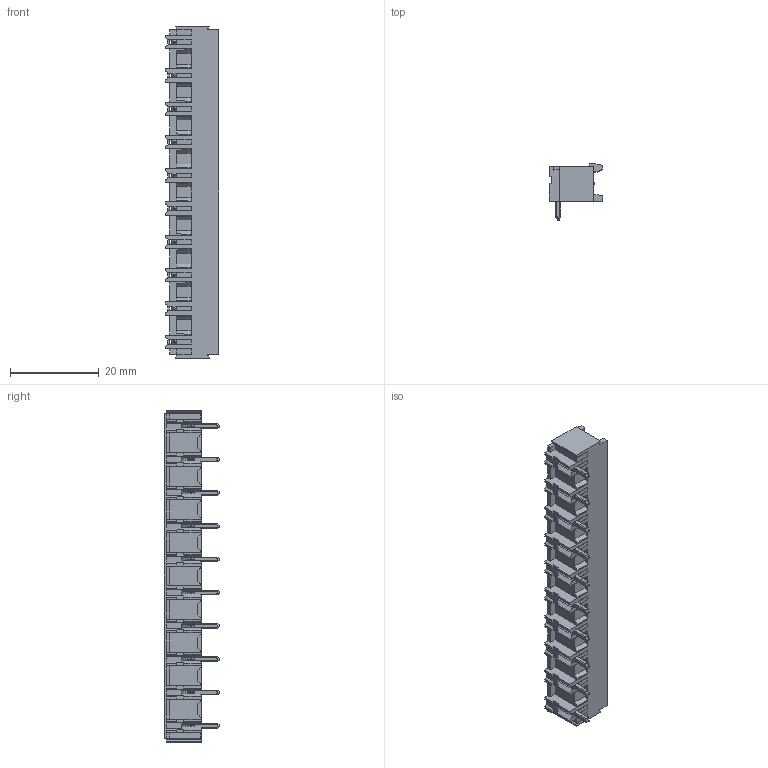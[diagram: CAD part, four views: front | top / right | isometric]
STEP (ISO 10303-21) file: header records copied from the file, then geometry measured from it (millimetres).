
FILE_DESCRIPTION (( 'STEP AP214' ), '1' );
FILE_NAME ('122-M-211-10.STEP', '2008-01-18T05:05:13', ( ' ' ), ( '' ), 'SwSTEP 2.0', 'SolidWorks 2007', '' );
FILE_SCHEMA (( 'AUTOMOTIVE_DESIGN' ));
Length unit declared in the file: millimetre
Products named in the file (1): 122-M-211-10
Bounding box: 12 x 12.53 x 74.8 mm (x, y, z)
Volume: 2578.2 mm3; surface area: 5852.4 mm2
Topology: 1 solids, 1 shells, 1959 faces, 5977 edges, 3810 vertices
Faces by surface type: plane 1795, cone 100, cylinder 54, bspline 10
Entity records: 66780 total; most frequent: CARTESIAN_POINT 13607, ORIENTED_EDGE 11954, DIRECTION 9695, EDGE_CURVE 5977, VECTOR 5419, LINE 5419, VERTEX_POINT 3810, EDGE_LOOP 2149
